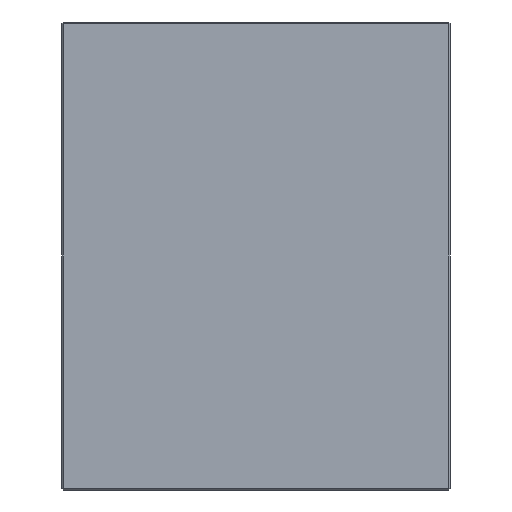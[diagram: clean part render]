
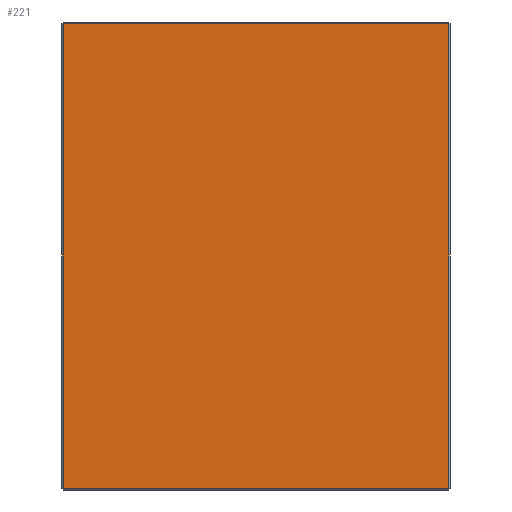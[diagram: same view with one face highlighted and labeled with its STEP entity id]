
A CAD part, front view. The second image highlights one B-rep face of the part: STEP entity #221.
In plain terms, the highlighted planar face has unit normal (0, -1, 0).
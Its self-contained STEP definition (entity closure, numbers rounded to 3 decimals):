
#63 = ORIENTED_EDGE ( 'NONE', *, *, #318, .T. ) ;
#77 = FACE_OUTER_BOUND ( 'NONE', #381, .T. ) ;
#95 = ORIENTED_EDGE ( 'NONE', *, *, #579, .T. ) ;
#102 = CARTESIAN_POINT ( 'NONE',  ( -122., 0., 147. ) ) ;
#153 = CARTESIAN_POINT ( 'NONE',  ( -122., 0., -147. ) ) ;
#159 = DIRECTION ( 'NONE',  ( 1., 0., 0. ) ) ;
#203 = DIRECTION ( 'NONE',  ( 0., 0., 1. ) ) ;
#210 = LINE ( 'NONE', #289, #644 ) ;
#221 = ADVANCED_FACE ( 'NONE', ( #77 ), #343, .F. ) ;
#240 = DIRECTION ( 'NONE',  ( 0., 0., 1. ) ) ;
#244 = CARTESIAN_POINT ( 'NONE',  ( 0., 0., 0. ) ) ;
#247 = CARTESIAN_POINT ( 'NONE',  ( 122., 0., -147. ) ) ;
#279 = DIRECTION ( 'NONE',  ( -1., 0., 0. ) ) ;
#280 = VERTEX_POINT ( 'NONE', #153 ) ;
#281 = DIRECTION ( 'NONE',  ( 0., 0., -1. ) ) ;
#289 = CARTESIAN_POINT ( 'NONE',  ( 122., 0., 0. ) ) ;
#305 = CARTESIAN_POINT ( 'NONE',  ( 0., 0., 147. ) ) ;
#309 = EDGE_CURVE ( 'NONE', #531, #280, #437, .T. ) ;
#317 = LINE ( 'NONE', #561, #640 ) ;
#318 = EDGE_CURVE ( 'NONE', #632, #531, #429, .T. ) ;
#343 = PLANE ( 'NONE',  #378 ) ;
#361 = CARTESIAN_POINT ( 'NONE',  ( 122., 0., 147. ) ) ;
#362 = EDGE_CURVE ( 'NONE', #280, #597, #317, .T. ) ;
#378 = AXIS2_PLACEMENT_3D ( 'NONE', #244, #423, #240 ) ;
#381 = EDGE_LOOP ( 'NONE', ( #95, #63, #631, #559 ) ) ;
#423 = DIRECTION ( 'NONE',  ( 0., 1., 0. ) ) ;
#429 = LINE ( 'NONE', #305, #448 ) ;
#437 = LINE ( 'NONE', #539, #512 ) ;
#448 = VECTOR ( 'NONE', #279, 1000. ) ;
#512 = VECTOR ( 'NONE', #281, 1000. ) ;
#531 = VERTEX_POINT ( 'NONE', #102 ) ;
#539 = CARTESIAN_POINT ( 'NONE',  ( -122., 0., 0. ) ) ;
#559 = ORIENTED_EDGE ( 'NONE', *, *, #362, .T. ) ;
#561 = CARTESIAN_POINT ( 'NONE',  ( 0., 0., -147. ) ) ;
#579 = EDGE_CURVE ( 'NONE', #597, #632, #210, .T. ) ;
#597 = VERTEX_POINT ( 'NONE', #247 ) ;
#631 = ORIENTED_EDGE ( 'NONE', *, *, #309, .T. ) ;
#632 = VERTEX_POINT ( 'NONE', #361 ) ;
#640 = VECTOR ( 'NONE', #159, 1000. ) ;
#644 = VECTOR ( 'NONE', #203, 1000. ) ;
